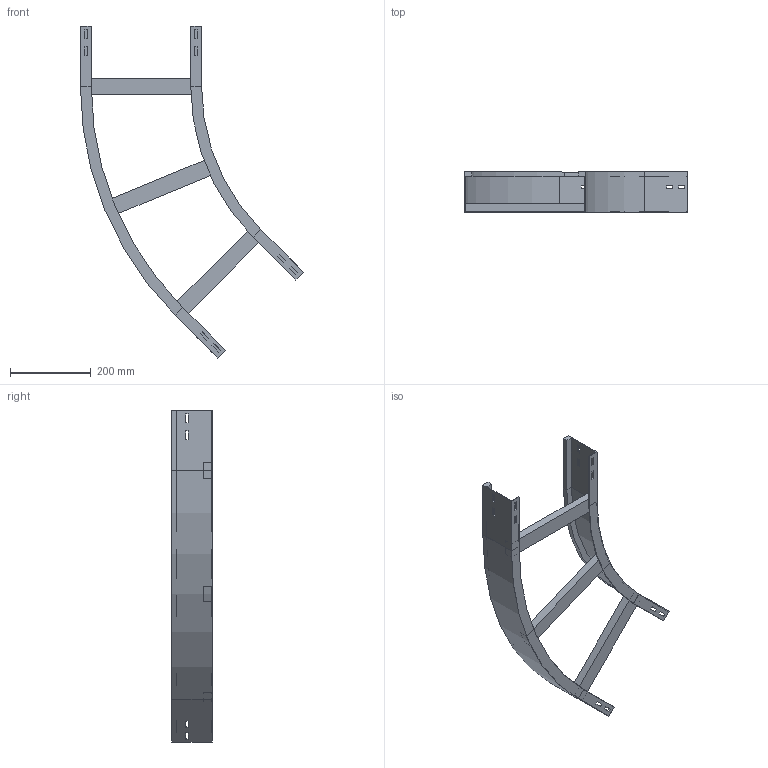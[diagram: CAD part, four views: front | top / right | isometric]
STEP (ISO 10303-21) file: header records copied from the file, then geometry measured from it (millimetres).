
FILE_DESCRIPTION (( 'STEP AP214' ), '1' );
FILE_NAME ('11B5D300.step', '2025-02-21T15:11:45', ( '' ), ( '' ), 'SwSTEP 2.0', 'SolidWorks 2023', '' );
FILE_SCHEMA (( 'AUTOMOTIVE_DESIGN' ));
Length unit declared in the file: millimetre
Products named in the file (4): 11B5D300; A2_LONGH.INTERNO 45°_H100_R500; TRAVERSINO_300; A2_LONGH.ESTERNO 45°_H100_R500+300
Assembly tree (5 placements, depth 2):
  11B5D300
    A2_LONGH.INTERNO 45°_H100_R500
    A2_LONGH.ESTERNO 45°_H100_R500+300
    TRAVERSINO_300  x3
Bounding box: 552.51 x 100 x 821.75 mm (x, y, z)
Volume: 1430841.8 mm3; surface area: 574615 mm2
Topology: 5 solids, 5 shells, 134 faces, 340 edges, 216 vertices
Faces by surface type: plane 126, cylinder 8
Entity records: 3821 total; most frequent: CARTESIAN_POINT 646, ORIENTED_EDGE 632, DIRECTION 592, EDGE_CURVE 316, LINE 300, VECTOR 300, VERTEX_POINT 200, EDGE_LOOP 154
